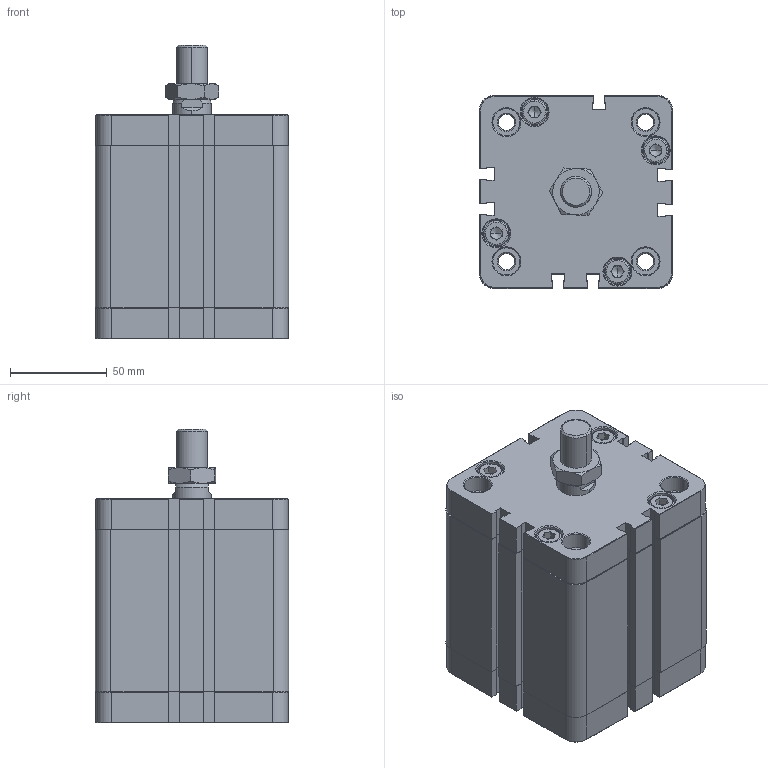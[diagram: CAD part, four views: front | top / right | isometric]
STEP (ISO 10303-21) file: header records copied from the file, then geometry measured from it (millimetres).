
FILE_DESCRIPTION (( 'STEP AP214' ), '1' );
FILE_NAME ('WACC-080-0060-ML (3D).STEP', '2021-11-15T06:57:38', ( '' ), ( '' ), 'SwSTEP 2.0', 'SolidWorks 2016', '' );
FILE_SCHEMA (( 'AUTOMOTIVE_DESIGN' ));
Length unit declared in the file: millimetre
Products named in the file (4): Y.10.002.SM.046.080.00.0000_Y.10.002.SM.004.080.00.0000.ML-1^WACC-080-0060-ML (3D); hex thin nut chamfered gradeab_din_Hexagon Thin Nut ISO 4035 - M16 - N-1^WACC-080-0060-ML (3D); Group3^WACC-080-0060-ML (3D); WACC-080-0060-ML (3D)
Assembly tree (3 placements, depth 2):
  WACC-080-0060-ML (3D)
    Group3^WACC-080-0060-ML (3D)
    hex thin nut chamfered gradeab_din_Hexagon Thin Nut ISO 4035 - M16 - N-1^WACC-080-0060-ML (3D)
    Y.10.002.SM.046.080.00.0000_Y.10.002.SM.004.080.00.0000.ML-1^WACC-080-0060-ML (3D)
Bounding box: 100 x 100 x 152 mm (x, y, z)
Volume: 800030.5 mm3; surface area: 177375.6 mm2
Topology: 13 solids, 13 shells, 914 faces, 2300 edges, 1464 vertices
Faces by surface type: plane 550, cylinder 126, cone 124, bspline 114
Entity records: 35027 total; most frequent: CARTESIAN_POINT 11296, ORIENTED_EDGE 4568, DIRECTION 4100, EDGE_CURVE 2284, VECTOR 1596, LINE 1596, VERTEX_POINT 1464, AXIS2_PLACEMENT_3D 1252
